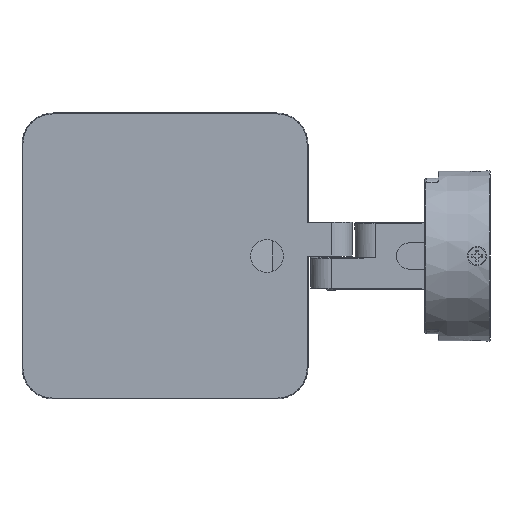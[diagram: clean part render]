
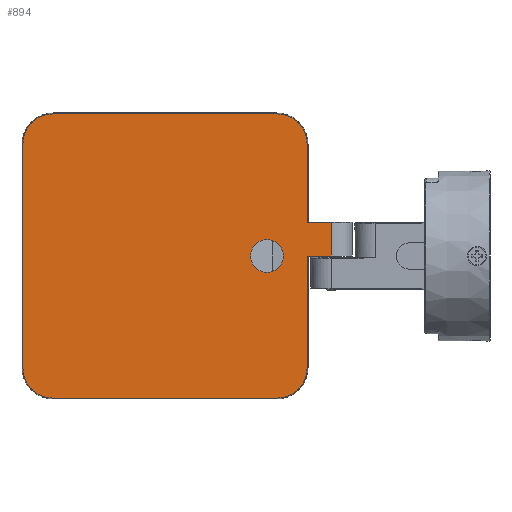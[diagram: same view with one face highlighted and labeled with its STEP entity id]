
A CAD part, front view. The second image highlights one B-rep face of the part: STEP entity #894.
In plain terms, the highlighted planar face has unit normal (0, -1, 0).
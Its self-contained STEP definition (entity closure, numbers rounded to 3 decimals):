
#1=DIRECTION('',(0.,0.,-1.));
#2=VECTOR('',#1,30.);
#3=CARTESIAN_POINT('',(54.686,-12.,43.));
#4=LINE('',#3,#2);
#5=DIRECTION('',(0.,0.,-1.));
#6=VECTOR('',#5,43.);
#7=CARTESIAN_POINT('',(54.686,-12.,0.));
#8=LINE('',#7,#6);
#9=CARTESIAN_POINT('',(43.,-12.,-43.));
#10=DIRECTION('',(0.,-1.,0.));
#11=DIRECTION('',(0.,0.,-1.));
#12=AXIS2_PLACEMENT_3D('',#9,#10,#11);
#14=DIRECTION('',(-1.,0.,0.));
#15=VECTOR('',#14,86.);
#16=CARTESIAN_POINT('',(43.,-12.,-54.686));
#17=LINE('',#16,#15);
#18=CARTESIAN_POINT('',(-43.,-12.,-43.));
#19=DIRECTION('',(0.,-1.,0.));
#20=DIRECTION('',(-1.,0.,0.));
#21=AXIS2_PLACEMENT_3D('',#18,#19,#20);
#23=DIRECTION('',(0.,0.,1.));
#24=VECTOR('',#23,86.);
#25=CARTESIAN_POINT('',(-54.686,-12.,-43.));
#26=LINE('',#25,#24);
#27=CARTESIAN_POINT('',(-43.,-12.,43.));
#28=DIRECTION('',(0.,-1.,0.));
#29=DIRECTION('',(0.,0.,1.));
#30=AXIS2_PLACEMENT_3D('',#27,#28,#29);
#32=DIRECTION('',(1.,0.,0.));
#33=VECTOR('',#32,86.);
#34=CARTESIAN_POINT('',(-43.,-12.,54.686));
#35=LINE('',#34,#33);
#36=CARTESIAN_POINT('',(43.,-12.,43.));
#37=DIRECTION('',(0.,-1.,0.));
#38=DIRECTION('',(1.,0.,0.));
#39=AXIS2_PLACEMENT_3D('',#36,#37,#38);
#41=CARTESIAN_POINT('',(39.2,-12.,0.));
#42=DIRECTION('',(0.,-1.,0.));
#43=DIRECTION('',(0.,0.,1.));
#44=AXIS2_PLACEMENT_3D('',#41,#42,#43);
#46=CARTESIAN_POINT('',(39.2,-12.,0.));
#47=DIRECTION('',(0.,-1.,0.));
#48=DIRECTION('',(0.,0.,-1.));
#49=AXIS2_PLACEMENT_3D('',#46,#47,#48);
#253=DIRECTION('',(1.,0.,0.));
#254=VECTOR('',#253,9.314);
#255=CARTESIAN_POINT('',(54.686,-12.,0.));
#256=LINE('',#255,#254);
#285=DIRECTION('',(1.,0.,0.));
#286=VECTOR('',#285,9.314);
#287=CARTESIAN_POINT('',(54.686,-12.,13.));
#288=LINE('',#287,#286);
#299=DIRECTION('',(0.,0.,1.));
#300=VECTOR('',#299,13.);
#301=CARTESIAN_POINT('',(64.,-12.,0.));
#302=LINE('',#301,#300);
#693=CARTESIAN_POINT('',(64.,-12.,0.));
#695=VERTEX_POINT('',#693);
#697=CARTESIAN_POINT('',(64.,-12.,13.));
#699=VERTEX_POINT('',#697);
#713=CARTESIAN_POINT('',(39.2,-12.,6.3));
#714=CARTESIAN_POINT('',(39.2,-12.,-6.3));
#715=VERTEX_POINT('',#713);
#716=VERTEX_POINT('',#714);
#721=CARTESIAN_POINT('',(-43.,-12.,54.686));
#722=CARTESIAN_POINT('',(-54.686,-12.,43.));
#723=VERTEX_POINT('',#721);
#724=VERTEX_POINT('',#722);
#729=CARTESIAN_POINT('',(-54.686,-12.,-43.));
#730=CARTESIAN_POINT('',(-43.,-12.,-54.686));
#731=VERTEX_POINT('',#729);
#732=VERTEX_POINT('',#730);
#737=CARTESIAN_POINT('',(54.686,-12.,43.));
#738=CARTESIAN_POINT('',(43.,-12.,54.686));
#739=VERTEX_POINT('',#737);
#740=VERTEX_POINT('',#738);
#745=CARTESIAN_POINT('',(43.,-12.,-54.686));
#746=CARTESIAN_POINT('',(54.686,-12.,-43.));
#747=VERTEX_POINT('',#745);
#748=VERTEX_POINT('',#746);
#753=CARTESIAN_POINT('',(54.686,-12.,0.));
#755=VERTEX_POINT('',#753);
#757=CARTESIAN_POINT('',(54.686,-12.,13.));
#759=VERTEX_POINT('',#757);
#857=CARTESIAN_POINT('',(0.,-12.,0.));
#858=DIRECTION('',(0.,1.,0.));
#859=DIRECTION('',(0.,0.,-1.));
#860=AXIS2_PLACEMENT_3D('',#857,#858,#859);
#861=PLANE('',#860);
#863=ORIENTED_EDGE('',*,*,#862,.T.);
#865=ORIENTED_EDGE('',*,*,#864,.T.);
#867=ORIENTED_EDGE('',*,*,#866,.F.);
#869=ORIENTED_EDGE('',*,*,#868,.F.);
#871=ORIENTED_EDGE('',*,*,#870,.T.);
#873=ORIENTED_EDGE('',*,*,#872,.F.);
#875=ORIENTED_EDGE('',*,*,#874,.T.);
#877=ORIENTED_EDGE('',*,*,#876,.F.);
#879=ORIENTED_EDGE('',*,*,#878,.T.);
#881=ORIENTED_EDGE('',*,*,#880,.F.);
#883=ORIENTED_EDGE('',*,*,#882,.T.);
#885=ORIENTED_EDGE('',*,*,#884,.F.);
#886=EDGE_LOOP('',(#863,#865,#867,#869,#871,#873,#875,#877,#879,#881,#883,
#885));
#887=FACE_OUTER_BOUND('',#886,.F.);
#889=ORIENTED_EDGE('',*,*,#888,.T.);
#891=ORIENTED_EDGE('',*,*,#890,.T.);
#892=EDGE_LOOP('',(#889,#891));
#893=FACE_BOUND('',#892,.F.);
#894=ADVANCED_FACE('',(#887,#893),#861,.F.);
#13=CIRCLE('',#12,11.686);
#22=CIRCLE('',#21,11.686);
#31=CIRCLE('',#30,11.686);
#40=CIRCLE('',#39,11.686);
#45=CIRCLE('',#44,6.3);
#50=CIRCLE('',#49,6.3);
#862=EDGE_CURVE('',#739,#759,#4,.T.);
#864=EDGE_CURVE('',#759,#699,#288,.T.);
#866=EDGE_CURVE('',#695,#699,#302,.T.);
#868=EDGE_CURVE('',#755,#695,#256,.T.);
#870=EDGE_CURVE('',#755,#748,#8,.T.);
#872=EDGE_CURVE('',#747,#748,#13,.T.);
#874=EDGE_CURVE('',#747,#732,#17,.T.);
#876=EDGE_CURVE('',#731,#732,#22,.T.);
#878=EDGE_CURVE('',#731,#724,#26,.T.);
#880=EDGE_CURVE('',#723,#724,#31,.T.);
#882=EDGE_CURVE('',#723,#740,#35,.T.);
#884=EDGE_CURVE('',#739,#740,#40,.T.);
#888=EDGE_CURVE('',#715,#716,#45,.T.);
#890=EDGE_CURVE('',#716,#715,#50,.T.);
